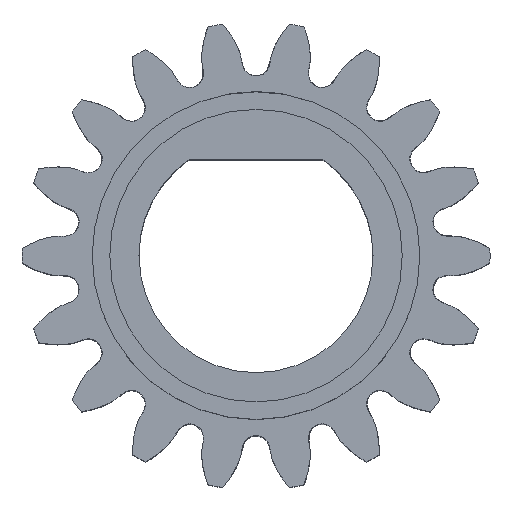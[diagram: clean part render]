
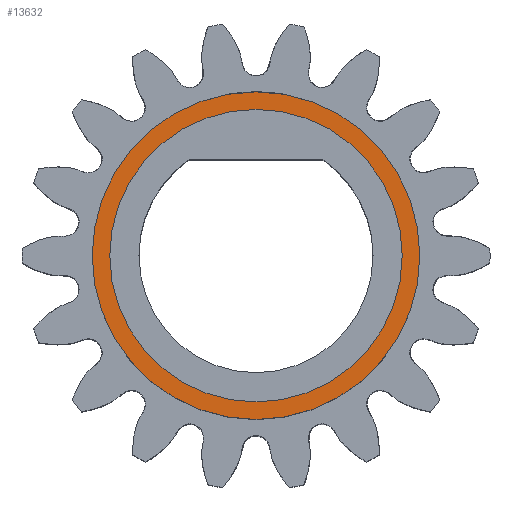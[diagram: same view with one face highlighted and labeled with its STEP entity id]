
A CAD part, top view. The second image highlights one B-rep face of the part: STEP entity #13632.
In plain terms, the highlighted planar face has unit normal (0, 0, 1).
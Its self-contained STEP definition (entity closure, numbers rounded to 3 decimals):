
#10094 = CYLINDRICAL_SURFACE('',#10095,7.);
#10095 = AXIS2_PLACEMENT_3D('',#10096,#10097,#10098);
#10096 = CARTESIAN_POINT('',(0.,0.,8.99));
#10097 = DIRECTION('',(0.,0.,1.));
#10098 = DIRECTION('',(1.,0.,-0.));
#13366 = VERTEX_POINT('',#13367);
#13367 = CARTESIAN_POINT('',(7.,0.,12.5));
#13388 = EDGE_CURVE('',#13366,#13366,#13389,.T.);
#13389 = SURFACE_CURVE('',#13390,(#13395,#13402),.PCURVE_S1.);
#13390 = CIRCLE('',#13391,7.);
#13391 = AXIS2_PLACEMENT_3D('',#13392,#13393,#13394);
#13392 = CARTESIAN_POINT('',(0.,0.,12.5));
#13393 = DIRECTION('',(0.,0.,1.));
#13394 = DIRECTION('',(1.,0.,-0.));
#13395 = PCURVE('',#10094,#13396);
#13396 = DEFINITIONAL_REPRESENTATION('',(#13397),#13401);
#13397 = LINE('',#13398,#13399);
#13398 = CARTESIAN_POINT('',(0.,3.51));
#13399 = VECTOR('',#13400,1.);
#13400 = DIRECTION('',(1.,0.));
#13401 = ( GEOMETRIC_REPRESENTATION_CONTEXT(2) 
PARAMETRIC_REPRESENTATION_CONTEXT() REPRESENTATION_CONTEXT('2D SPACE',''
  ) );
#13402 = PCURVE('',#13403,#13408);
#13403 = PLANE('',#13404);
#13404 = AXIS2_PLACEMENT_3D('',#13405,#13406,#13407);
#13405 = CARTESIAN_POINT('',(0.,0.,12.5));
#13406 = DIRECTION('',(0.,0.,1.));
#13407 = DIRECTION('',(1.,0.,-0.));
#13408 = DEFINITIONAL_REPRESENTATION('',(#13409),#13413);
#13409 = CIRCLE('',#13410,7.);
#13410 = AXIS2_PLACEMENT_2D('',#13411,#13412);
#13411 = CARTESIAN_POINT('',(0.,0.));
#13412 = DIRECTION('',(1.,0.));
#13413 = ( GEOMETRIC_REPRESENTATION_CONTEXT(2) 
PARAMETRIC_REPRESENTATION_CONTEXT() REPRESENTATION_CONTEXT('2D SPACE',''
  ) );
#13584 = CYLINDRICAL_SURFACE('',#13585,6.25);
#13585 = AXIS2_PLACEMENT_3D('',#13586,#13587,#13588);
#13586 = CARTESIAN_POINT('',(0.,0.,12.49));
#13587 = DIRECTION('',(0.,0.,1.));
#13588 = DIRECTION('',(1.,0.,-0.));
#13632 = ADVANCED_FACE('',(#13633,#13636),#13403,.T.);
#13633 = FACE_BOUND('',#13634,.T.);
#13634 = EDGE_LOOP('',(#13635));
#13635 = ORIENTED_EDGE('',*,*,#13388,.T.);
#13636 = FACE_BOUND('',#13637,.T.);
#13637 = EDGE_LOOP('',(#13638));
#13638 = ORIENTED_EDGE('',*,*,#13639,.F.);
#13639 = EDGE_CURVE('',#13640,#13640,#13642,.T.);
#13640 = VERTEX_POINT('',#13641);
#13641 = CARTESIAN_POINT('',(6.25,0.,12.5));
#13642 = SURFACE_CURVE('',#13643,(#13648,#13655),.PCURVE_S1.);
#13643 = CIRCLE('',#13644,6.25);
#13644 = AXIS2_PLACEMENT_3D('',#13645,#13646,#13647);
#13645 = CARTESIAN_POINT('',(0.,0.,12.5));
#13646 = DIRECTION('',(0.,0.,1.));
#13647 = DIRECTION('',(1.,0.,-0.));
#13648 = PCURVE('',#13403,#13649);
#13649 = DEFINITIONAL_REPRESENTATION('',(#13650),#13654);
#13650 = CIRCLE('',#13651,6.25);
#13651 = AXIS2_PLACEMENT_2D('',#13652,#13653);
#13652 = CARTESIAN_POINT('',(0.,0.));
#13653 = DIRECTION('',(1.,0.));
#13654 = ( GEOMETRIC_REPRESENTATION_CONTEXT(2) 
PARAMETRIC_REPRESENTATION_CONTEXT() REPRESENTATION_CONTEXT('2D SPACE',''
  ) );
#13655 = PCURVE('',#13584,#13656);
#13656 = DEFINITIONAL_REPRESENTATION('',(#13657),#13661);
#13657 = LINE('',#13658,#13659);
#13658 = CARTESIAN_POINT('',(0.,0.01));
#13659 = VECTOR('',#13660,1.);
#13660 = DIRECTION('',(1.,0.));
#13661 = ( GEOMETRIC_REPRESENTATION_CONTEXT(2) 
PARAMETRIC_REPRESENTATION_CONTEXT() REPRESENTATION_CONTEXT('2D SPACE',''
  ) );
